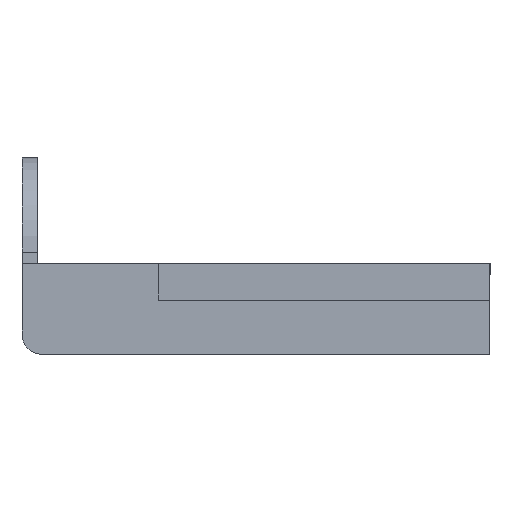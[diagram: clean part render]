
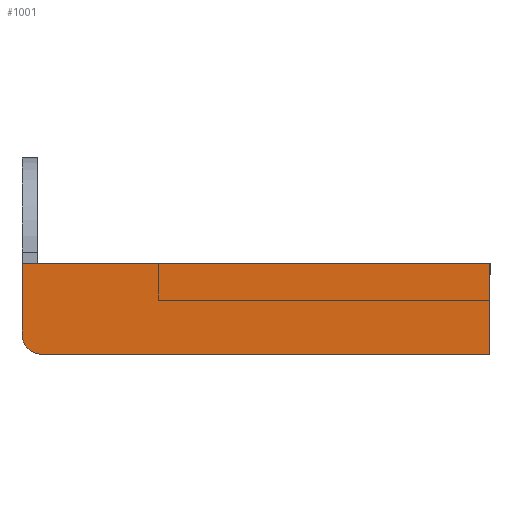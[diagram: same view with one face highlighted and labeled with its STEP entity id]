
A CAD part, left-side view. The second image highlights one B-rep face of the part: STEP entity #1001.
In plain terms, the highlighted planar face has unit normal (-1, 0, 0) as drawn and (0, 1, 0) by its records, which use the part's own axes.
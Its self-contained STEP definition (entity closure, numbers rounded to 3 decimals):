
#36 = EDGE_CURVE ( 'NONE', #11767, #12166, #398, .T. ) ;
#68 = VECTOR ( 'NONE', #6457, 1000. ) ;
#398 = LINE ( 'NONE', #2509, #68 ) ;
#732 = CIRCLE ( 'NONE', #2973, 4. ) ;
#794 = FACE_OUTER_BOUND ( 'NONE', #7712, .T. ) ;
#871 = CARTESIAN_POINT ( 'NONE',  ( -11.2, 385., -42.5 ) ) ;
#1001 = ADVANCED_FACE ( 'NONE', ( #794 ), #4726, .T. ) ;
#1419 = DIRECTION ( 'NONE',  ( 0., 0., -1. ) ) ;
#1597 = LINE ( 'NONE', #6381, #2582 ) ;
#1881 = EDGE_CURVE ( 'NONE', #11767, #7436, #732, .T. ) ;
#2308 = LINE ( 'NONE', #6263, #2923 ) ;
#2386 = EDGE_CURVE ( 'NONE', #7436, #5204, #1597, .T. ) ;
#2509 = CARTESIAN_POINT ( 'NONE',  ( -7.2, 385., -135. ) ) ;
#2582 = VECTOR ( 'NONE', #3542, 1000. ) ;
#2923 = VECTOR ( 'NONE', #9431, 1000. ) ;
#2973 = AXIS2_PLACEMENT_3D ( 'NONE', #10273, #4180, #1419 ) ;
#3107 = EDGE_CURVE ( 'NONE', #7293, #5204, #8642, .T. ) ;
#3542 = DIRECTION ( 'NONE',  ( 0., 0., 1. ) ) ;
#3755 = CARTESIAN_POINT ( 'NONE',  ( -11.2, 385., -35. ) ) ;
#3939 = ORIENTED_EDGE ( 'NONE', *, *, #4210, .F. ) ;
#3982 = ORIENTED_EDGE ( 'NONE', *, *, #3107, .F. ) ;
#4180 = DIRECTION ( 'NONE',  ( 0., 1., 0. ) ) ;
#4210 = EDGE_CURVE ( 'NONE', #12166, #7293, #2308, .T. ) ;
#4239 = CARTESIAN_POINT ( 'NONE',  ( 6.8, 385., -42.5 ) ) ;
#4726 = PLANE ( 'NONE',  #10394 ) ;
#5204 = VERTEX_POINT ( 'NONE', #871 ) ;
#5997 = DIRECTION ( 'NONE',  ( 0., 1., 0. ) ) ;
#6263 = CARTESIAN_POINT ( 'NONE',  ( 6.8, 385., -135. ) ) ;
#6381 = CARTESIAN_POINT ( 'NONE',  ( -11.2, 385., -131. ) ) ;
#6457 = DIRECTION ( 'NONE',  ( 1., 0., 0. ) ) ;
#7023 = CARTESIAN_POINT ( 'NONE',  ( -7.2, 385., -135. ) ) ;
#7062 = ORIENTED_EDGE ( 'NONE', *, *, #1881, .T. ) ;
#7293 = VERTEX_POINT ( 'NONE', #4239 ) ;
#7416 = CARTESIAN_POINT ( 'NONE',  ( -11.2, 385., -131. ) ) ;
#7436 = VERTEX_POINT ( 'NONE', #7416 ) ;
#7501 = ORIENTED_EDGE ( 'NONE', *, *, #2386, .T. ) ;
#7712 = EDGE_LOOP ( 'NONE', ( #3939, #8481, #7062, #7501, #3982 ) ) ;
#7953 = DIRECTION ( 'NONE',  ( 1., 0., 0. ) ) ;
#8299 = VECTOR ( 'NONE', #11473, 1000. ) ;
#8481 = ORIENTED_EDGE ( 'NONE', *, *, #36, .F. ) ;
#8642 = LINE ( 'NONE', #12730, #8299 ) ;
#9431 = DIRECTION ( 'NONE',  ( 0., 0., 1. ) ) ;
#10273 = CARTESIAN_POINT ( 'NONE',  ( -7.2, 385., -131. ) ) ;
#10394 = AXIS2_PLACEMENT_3D ( 'NONE', #3755, #5997, #7953 ) ;
#11473 = DIRECTION ( 'NONE',  ( -1., 0., 0. ) ) ;
#11767 = VERTEX_POINT ( 'NONE', #7023 ) ;
#12166 = VERTEX_POINT ( 'NONE', #12693 ) ;
#12693 = CARTESIAN_POINT ( 'NONE',  ( 6.8, 385., -135. ) ) ;
#12730 = CARTESIAN_POINT ( 'NONE',  ( 6.8, 385., -42.5 ) ) ;
